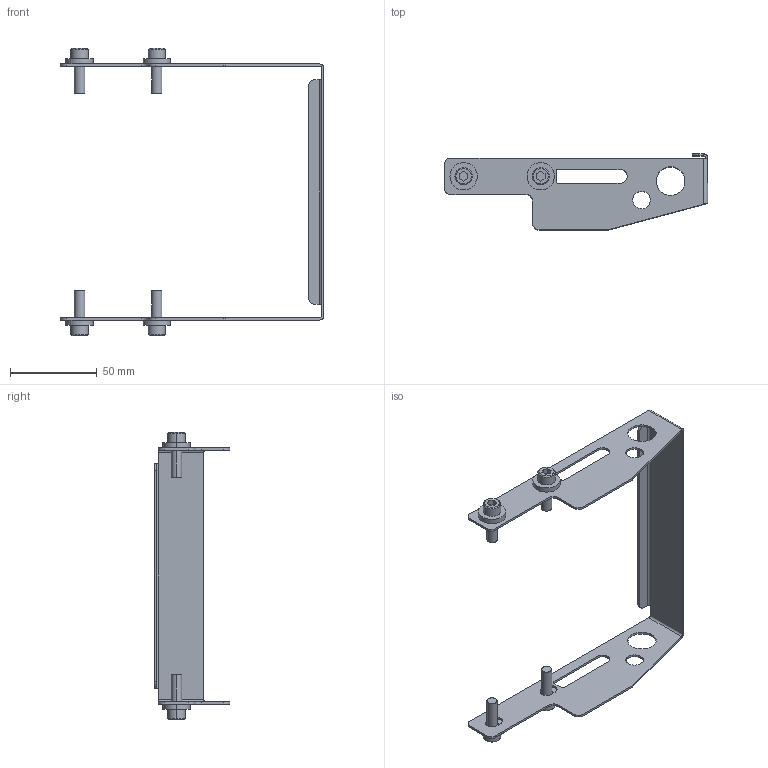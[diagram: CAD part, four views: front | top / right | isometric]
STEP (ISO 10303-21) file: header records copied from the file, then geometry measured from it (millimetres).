
FILE_DESCRIPTION((''),'2;1');
FILE_NAME('207218-03_ASM','2017-03-01T',('jenni.wallner'),(''),'PRO/ENGINEER BY PARAMETRIC TECHNOLOGY CORPORATION, 2012420','PRO/ENGINEER BY PARAMETRIC TECHNOLOGY CORPORATION, 2012420','');
FILE_SCHEMA(('CONFIG_CONTROL_DESIGN'));
Length unit declared in the file: inch
Products named in the file (4): 207125-05; 605279P; 920620M; 207218-03_ASM
Assembly tree (9 placements, depth 2):
  207218-03_ASM
    207125-05
    605279P  x4
    920620M  x4
Bounding box: 151.79 x 43.71 x 165.7 mm (x, y, z)
Volume: 21599.5 mm3; surface area: 32944.4 mm2
Topology: 9 solids, 9 shells, 184 faces, 448 edges, 290 vertices
Faces by surface type: plane 90, cylinder 78, cone 16
Entity records: 3719 total; most frequent: DIRECTION 658, CARTESIAN_POINT 634, ORIENTED_EDGE 596, EDGE_CURVE 298, AXIS2_PLACEMENT_3D 239, VERTEX_POINT 194, VECTOR 180, LINE 180
